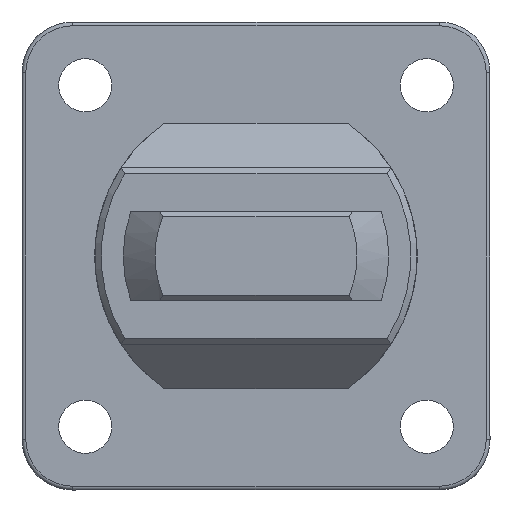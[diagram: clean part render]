
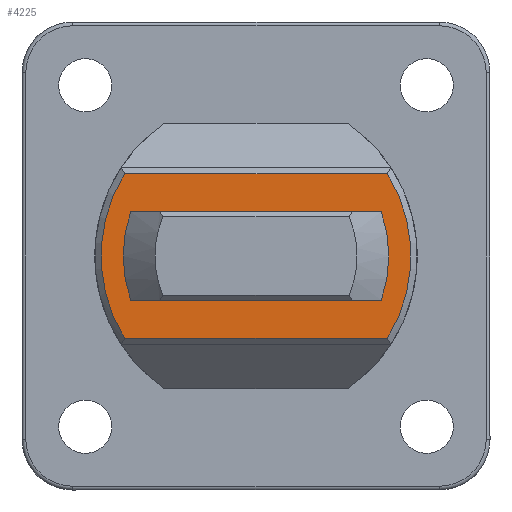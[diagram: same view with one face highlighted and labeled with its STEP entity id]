
A CAD part, front view. The second image highlights one B-rep face of the part: STEP entity #4225.
In plain terms, the highlighted planar face has unit normal (0, -1, 0).
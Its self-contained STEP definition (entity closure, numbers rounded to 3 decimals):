
#536 = ORIENTED_EDGE ( 'NONE', *, *, #5051, .T. ) ;
#537 = ORIENTED_EDGE ( 'NONE', *, *, #5052, .T. ) ;
#538 = ORIENTED_EDGE ( 'NONE', *, *, #5050, .T. ) ;
#539 = ORIENTED_EDGE ( 'NONE', *, *, #5054, .T. ) ;
#540 = ORIENTED_EDGE ( 'NONE', *, *, #5055, .F. ) ;
#541 = ORIENTED_EDGE ( 'NONE', *, *, #5056, .F. ) ;
#542 = ORIENTED_EDGE ( 'NONE', *, *, #5053, .F. ) ;
#543 = ORIENTED_EDGE ( 'NONE', *, *, #5057, .F. ) ;
#856 = CARTESIAN_POINT ( 'NONE',  ( -9.899, -20.7, 3.5 ) ) ;
#857 = CARTESIAN_POINT ( 'NONE',  ( 9.899, -20.7, 3.5 ) ) ;
#858 = CARTESIAN_POINT ( 'NONE',  ( -9.899, -20.7, -3.5 ) ) ;
#859 = CARTESIAN_POINT ( 'NONE',  ( 9.899, -20.7, -3.5 ) ) ;
#860 = CARTESIAN_POINT ( 'NONE',  ( -10.383, -20.7, -6.5 ) ) ;
#861 = CARTESIAN_POINT ( 'NONE',  ( 10.383, -20.7, -6.5 ) ) ;
#862 = CARTESIAN_POINT ( 'NONE',  ( 10.383, -20.7, 6.5 ) ) ;
#863 = CARTESIAN_POINT ( 'NONE',  ( -10.383, -20.7, 6.5 ) ) ;
#1079 = PLANE ( 'NONE',  #4702 ) ;
#1080 = CARTESIAN_POINT ( 'NONE',  ( 0., -20.7, 0. ) ) ;
#1081 = DIRECTION ( 'NONE',  ( 0., -1., 0. ) ) ;
#1082 = DIRECTION ( 'NONE',  ( 0., 0., -1. ) ) ;
#1820 = VERTEX_POINT ( 'NONE', #856 ) ;
#1821 = VERTEX_POINT ( 'NONE', #857 ) ;
#1822 = VERTEX_POINT ( 'NONE', #858 ) ;
#1823 = VERTEX_POINT ( 'NONE', #859 ) ;
#1824 = VERTEX_POINT ( 'NONE', #860 ) ;
#1825 = VERTEX_POINT ( 'NONE', #861 ) ;
#1826 = VERTEX_POINT ( 'NONE', #862 ) ;
#1827 = VERTEX_POINT ( 'NONE', #863 ) ;
#4225 = ADVANCED_FACE ( 'NONE', ( #4676, #4678 ), #1079, .T. ) ;
#4676 = FACE_OUTER_BOUND ( 'NONE', #6352, .T. ) ;
#4678 = FACE_BOUND ( 'NONE', #6364, .T. ) ;
#4702 = AXIS2_PLACEMENT_3D ( 'NONE', #1080, #1081, #1082 ) ;
#5050 = EDGE_CURVE ( 'NONE', #1827, #1824, #5250, .T. ) ;
#5051 = EDGE_CURVE ( 'NONE', #1826, #1827, #7533, .T. ) ;
#5052 = EDGE_CURVE ( 'NONE', #1824, #1825, #7536, .T. ) ;
#5053 = EDGE_CURVE ( 'NONE', #1820, #1822, #5251, .T. ) ;
#5054 = EDGE_CURVE ( 'NONE', #1825, #1826, #5252, .T. ) ;
#5055 = EDGE_CURVE ( 'NONE', #1822, #1823, #7545, .T. ) ;
#5056 = EDGE_CURVE ( 'NONE', #1821, #1820, #7548, .T. ) ;
#5057 = EDGE_CURVE ( 'NONE', #1823, #1821, #5253, .T. ) ;
#5250 = CIRCLE ( 'NONE', #7875, 12.25 ) ;
#5251 = CIRCLE ( 'NONE', #7880, 10.5 ) ;
#5252 = CIRCLE ( 'NONE', #7877, 12.25 ) ;
#5253 = CIRCLE ( 'NONE', #7868, 10.5 ) ;
#6352 = EDGE_LOOP ( 'NONE', ( #536, #538, #537, #539 ) ) ;
#6364 = EDGE_LOOP ( 'NONE', ( #540, #542, #541, #543 ) ) ;
#7529 = CARTESIAN_POINT ( 'NONE',  ( 0., -20.7, 0. ) ) ;
#7530 = DIRECTION ( 'NONE',  ( 0., -1., 0. ) ) ;
#7531 = DIRECTION ( 'NONE',  ( 0., 0., -1. ) ) ;
#7532 = CARTESIAN_POINT ( 'NONE',  ( 0., -20.7, 0. ) ) ;
#7533 = LINE ( 'NONE', #7534, #7881 ) ;
#7534 = CARTESIAN_POINT ( 'NONE',  ( -10.657, -20.7, 6.5 ) ) ;
#7535 = DIRECTION ( 'NONE',  ( -1., 0., 0. ) ) ;
#7536 = LINE ( 'NONE', #7537, #7882 ) ;
#7537 = CARTESIAN_POINT ( 'NONE',  ( 10.657, -20.7, -6.5 ) ) ;
#7538 = DIRECTION ( 'NONE',  ( 1., 0., 0. ) ) ;
#7539 = DIRECTION ( 'NONE',  ( 0., -1., 0. ) ) ;
#7540 = DIRECTION ( 'NONE',  ( 0., 0., -1. ) ) ;
#7541 = CARTESIAN_POINT ( 'NONE',  ( 0., -20.7, 0. ) ) ;
#7542 = DIRECTION ( 'NONE',  ( 0., -1., 0. ) ) ;
#7543 = DIRECTION ( 'NONE',  ( 0., 0., -1. ) ) ;
#7544 = CARTESIAN_POINT ( 'NONE',  ( 0., -20.7, 0. ) ) ;
#7545 = LINE ( 'NONE', #7546, #7884 ) ;
#7546 = CARTESIAN_POINT ( 'NONE',  ( -9.899, -20.7, -3.5 ) ) ;
#7547 = DIRECTION ( 'NONE',  ( 1., 0., 0. ) ) ;
#7548 = LINE ( 'NONE', #7549, #7885 ) ;
#7549 = CARTESIAN_POINT ( 'NONE',  ( -9.899, -20.7, 3.5 ) ) ;
#7550 = DIRECTION ( 'NONE',  ( -1., 0., 0. ) ) ;
#7551 = DIRECTION ( 'NONE',  ( 0., -1., 0. ) ) ;
#7552 = DIRECTION ( 'NONE',  ( 0., 0., -1. ) ) ;
#7868 = AXIS2_PLACEMENT_3D ( 'NONE', #7544, #7551, #7552 ) ;
#7875 = AXIS2_PLACEMENT_3D ( 'NONE', #7529, #7530, #7531 ) ;
#7877 = AXIS2_PLACEMENT_3D ( 'NONE', #7541, #7542, #7543 ) ;
#7880 = AXIS2_PLACEMENT_3D ( 'NONE', #7532, #7539, #7540 ) ;
#7881 = VECTOR ( 'NONE', #7535, 1000. ) ;
#7882 = VECTOR ( 'NONE', #7538, 1000. ) ;
#7884 = VECTOR ( 'NONE', #7547, 1000. ) ;
#7885 = VECTOR ( 'NONE', #7550, 1000. ) ;
